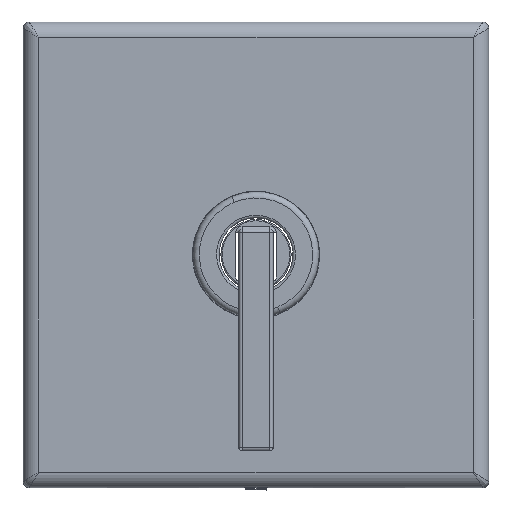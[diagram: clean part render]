
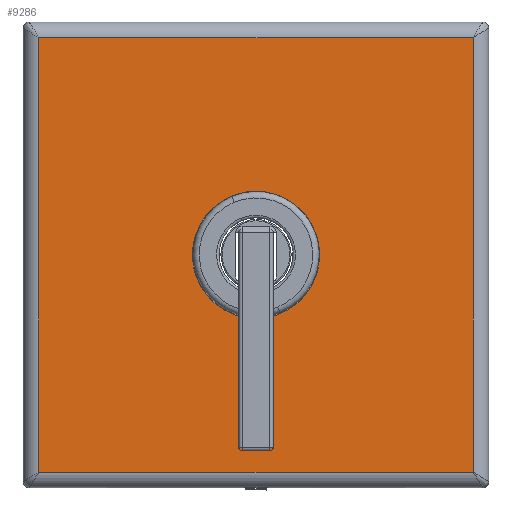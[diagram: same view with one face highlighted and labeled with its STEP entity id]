
A CAD part, top view. The second image highlights one B-rep face of the part: STEP entity #9286.
In plain terms, the highlighted planar face has unit normal (0, 0, 1).
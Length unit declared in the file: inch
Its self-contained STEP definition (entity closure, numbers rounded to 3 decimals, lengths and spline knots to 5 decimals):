
#200 = VECTOR ( 'NONE', #19151, 39.37008 ) ;
#785 = CARTESIAN_POINT ( 'NONE',  ( -3.5, -3.75, 0.375 ) ) ;
#1280 = DIRECTION ( 'NONE',  ( -1., 0., 0. ) ) ;
#1644 = DIRECTION ( 'NONE',  ( 0., 0., 1. ) ) ;
#1812 = DIRECTION ( 'NONE',  ( 1., 0., 0. ) ) ;
#2014 = VERTEX_POINT ( 'NONE', #4513 ) ;
#2080 = CIRCLE ( 'NONE', #20969, 1.0255 ) ;
#2358 = ORIENTED_EDGE ( 'NONE', *, *, #3852, .T. ) ;
#3292 = CARTESIAN_POINT ( 'NONE',  ( -1.0255, 0., 0.375 ) ) ;
#3852 = EDGE_CURVE ( 'NONE', #22376, #22836, #7228, .T. ) ;
#3877 = VERTEX_POINT ( 'NONE', #12346 ) ;
#4513 = CARTESIAN_POINT ( 'NONE',  ( 3.5, 3.5, 0.375 ) ) ;
#4556 = AXIS2_PLACEMENT_3D ( 'NONE', #11728, #15339, #6502 ) ;
#4766 = PLANE ( 'NONE',  #4556 ) ;
#5098 = LINE ( 'NONE', #17184, #200 ) ;
#5333 = VECTOR ( 'NONE', #1812, 39.37008 ) ;
#6115 = AXIS2_PLACEMENT_3D ( 'NONE', #19387, #1644, #8581 ) ;
#6502 = DIRECTION ( 'NONE',  ( 1., 0., 0. ) ) ;
#6918 = CARTESIAN_POINT ( 'NONE',  ( -3.5, 3.5, 0.375 ) ) ;
#7001 = CARTESIAN_POINT ( 'NONE',  ( -3.75, -3.5, 0.375 ) ) ;
#7228 = LINE ( 'NONE', #7001, #5333 ) ;
#8581 = DIRECTION ( 'NONE',  ( 1., 0., 0. ) ) ;
#8983 = EDGE_LOOP ( 'NONE', ( #2358, #9684, #15839, #18046 ) ) ;
#9286 = ADVANCED_FACE ( 'NONE', ( #22627, #20672 ), #4766, .T. ) ;
#9684 = ORIENTED_EDGE ( 'NONE', *, *, #20493, .T. ) ;
#10507 = VERTEX_POINT ( 'NONE', #3292 ) ;
#11728 = CARTESIAN_POINT ( 'NONE',  ( -3.75, -3.75, 0.375 ) ) ;
#11843 = EDGE_CURVE ( 'NONE', #3877, #10507, #17599, .T. ) ;
#12346 = CARTESIAN_POINT ( 'NONE',  ( 1.0255, 0., 0.375 ) ) ;
#12834 = LINE ( 'NONE', #785, #22545 ) ;
#12835 = VERTEX_POINT ( 'NONE', #6918 ) ;
#15025 = CARTESIAN_POINT ( 'NONE',  ( 3.5, -3.5, 0.375 ) ) ;
#15073 = EDGE_CURVE ( 'NONE', #2014, #12835, #18900, .T. ) ;
#15321 = ORIENTED_EDGE ( 'NONE', *, *, #11843, .F. ) ;
#15339 = DIRECTION ( 'NONE',  ( 0., 0., 1. ) ) ;
#15839 = ORIENTED_EDGE ( 'NONE', *, *, #15073, .T. ) ;
#15886 = CARTESIAN_POINT ( 'NONE',  ( -3.75, 3.5, 0.375 ) ) ;
#16099 = CARTESIAN_POINT ( 'NONE',  ( -3.5, -3.5, 0.375 ) ) ;
#17184 = CARTESIAN_POINT ( 'NONE',  ( 3.5, -3.75, 0.375 ) ) ;
#17599 = CIRCLE ( 'NONE', #6115, 1.0255 ) ;
#17810 = ORIENTED_EDGE ( 'NONE', *, *, #19807, .F. ) ;
#17881 = VECTOR ( 'NONE', #1280, 39.37008 ) ;
#18046 = ORIENTED_EDGE ( 'NONE', *, *, #18660, .T. ) ;
#18064 = EDGE_LOOP ( 'NONE', ( #15321, #17810 ) ) ;
#18660 = EDGE_CURVE ( 'NONE', #12835, #22376, #12834, .T. ) ;
#18900 = LINE ( 'NONE', #15886, #17881 ) ;
#19151 = DIRECTION ( 'NONE',  ( 0., 1., 0. ) ) ;
#19387 = CARTESIAN_POINT ( 'NONE',  ( 0., 0., 0.375 ) ) ;
#19807 = EDGE_CURVE ( 'NONE', #10507, #3877, #2080, .T. ) ;
#20027 = DIRECTION ( 'NONE',  ( 0., -1., 0. ) ) ;
#20493 = EDGE_CURVE ( 'NONE', #22836, #2014, #5098, .T. ) ;
#20672 = FACE_OUTER_BOUND ( 'NONE', #8983, .T. ) ;
#20746 = DIRECTION ( 'NONE',  ( 0., 0., 1. ) ) ;
#20969 = AXIS2_PLACEMENT_3D ( 'NONE', #22497, #20746, #22706 ) ;
#22376 = VERTEX_POINT ( 'NONE', #16099 ) ;
#22497 = CARTESIAN_POINT ( 'NONE',  ( 0., 0., 0.375 ) ) ;
#22545 = VECTOR ( 'NONE', #20027, 39.37008 ) ;
#22627 = FACE_BOUND ( 'NONE', #18064, .T. ) ;
#22706 = DIRECTION ( 'NONE',  ( 1., 0., 0. ) ) ;
#22836 = VERTEX_POINT ( 'NONE', #15025 ) ;
